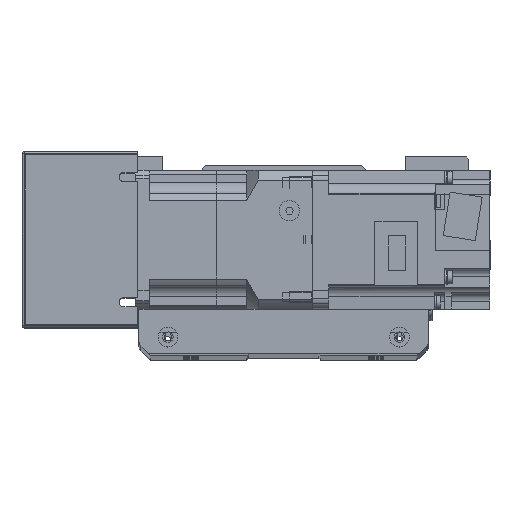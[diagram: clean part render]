
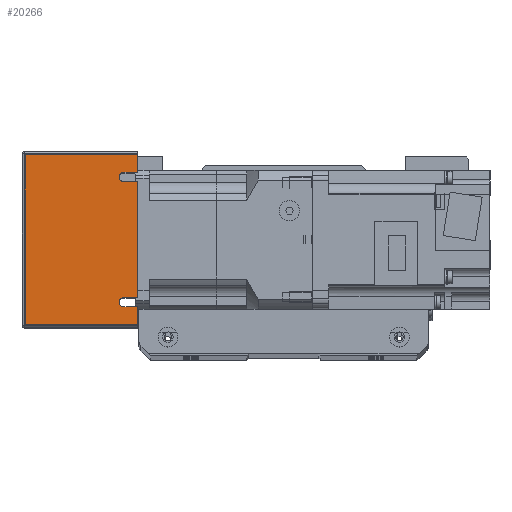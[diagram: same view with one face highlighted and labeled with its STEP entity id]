
A CAD part, top view. The second image highlights one B-rep face of the part: STEP entity #20266.
In plain terms, the highlighted planar face has unit normal (0, 0, 1) as drawn and (-1, 0, 0) by its records, which use the part's own axes.
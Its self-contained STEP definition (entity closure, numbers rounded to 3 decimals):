
#706=PLANE('',#22464);
#2036=LINE('',#34326,#3660);
#2045=LINE('',#34345,#3669);
#2052=LINE('',#34362,#3676);
#2060=LINE('',#34380,#3684);
#2073=LINE('',#34419,#3697);
#2078=LINE('',#34431,#3702);
#2082=LINE('',#34443,#3706);
#2085=LINE('',#34453,#3709);
#2086=LINE('',#34455,#3710);
#2087=LINE('',#34456,#3711);
#3660=VECTOR('',#27825,10.);
#3669=VECTOR('',#27838,10.);
#3676=VECTOR('',#27849,10.);
#3684=VECTOR('',#27861,10.);
#3697=VECTOR('',#27904,10.);
#3702=VECTOR('',#27915,10.);
#3706=VECTOR('',#27925,10.);
#3709=VECTOR('',#27936,10.);
#3710=VECTOR('',#27937,10.);
#3711=VECTOR('',#27938,10.);
#6078=FACE_OUTER_BOUND('',#7718,.T.);
#7718=EDGE_LOOP('',(#18199,#18200,#18201,#18202,#18203,#18204,#18205,#18206,
#18207,#18208,#18209,#18210));
#8878=CIRCLE('',#22442,2.);
#8883=CIRCLE('',#22450,2.);
#10587=VERTEX_POINT('',#34323);
#10588=VERTEX_POINT('',#34325);
#10594=VERTEX_POINT('',#34339);
#10596=VERTEX_POINT('',#34343);
#10603=VERTEX_POINT('',#34359);
#10604=VERTEX_POINT('',#34361);
#10611=VERTEX_POINT('',#34377);
#10612=VERTEX_POINT('',#34379);
#10623=VERTEX_POINT('',#34417);
#10632=VERTEX_POINT('',#34442);
#10635=VERTEX_POINT('',#34452);
#10636=VERTEX_POINT('',#34454);
#13158=EDGE_CURVE('',#10588,#10587,#2036,.T.);
#13167=EDGE_CURVE('',#10594,#10596,#2045,.T.);
#13174=EDGE_CURVE('',#10604,#10603,#2052,.T.);
#13182=EDGE_CURVE('',#10612,#10611,#2060,.T.);
#13188=EDGE_CURVE('',#10596,#10588,#8878,.T.);
#13199=EDGE_CURVE('',#10611,#10604,#8883,.T.);
#13204=EDGE_CURVE('',#10623,#10603,#2073,.T.);
#13211=EDGE_CURVE('',#10612,#10587,#2078,.T.);
#13217=EDGE_CURVE('',#10594,#10632,#2082,.T.);
#13222=EDGE_CURVE('',#10635,#10623,#2085,.T.);
#13223=EDGE_CURVE('',#10636,#10635,#2086,.T.);
#13224=EDGE_CURVE('',#10632,#10636,#2087,.T.);
#18199=ORIENTED_EDGE('',*,*,#13158,.T.);
#18200=ORIENTED_EDGE('',*,*,#13211,.F.);
#18201=ORIENTED_EDGE('',*,*,#13182,.T.);
#18202=ORIENTED_EDGE('',*,*,#13199,.T.);
#18203=ORIENTED_EDGE('',*,*,#13174,.T.);
#18204=ORIENTED_EDGE('',*,*,#13204,.F.);
#18205=ORIENTED_EDGE('',*,*,#13222,.F.);
#18206=ORIENTED_EDGE('',*,*,#13223,.F.);
#18207=ORIENTED_EDGE('',*,*,#13224,.F.);
#18208=ORIENTED_EDGE('',*,*,#13217,.F.);
#18209=ORIENTED_EDGE('',*,*,#13167,.T.);
#18210=ORIENTED_EDGE('',*,*,#13188,.T.);
#20266=ADVANCED_FACE('',(#6078),#706,.T.);
#22442=AXIS2_PLACEMENT_3D('',#34392,#27871,#27872);
#22450=AXIS2_PLACEMENT_3D('',#34410,#27893,#27894);
#22464=AXIS2_PLACEMENT_3D('',#34451,#27934,#27935);
#27825=DIRECTION('',(0.,0.,1.));
#27838=DIRECTION('',(0.,0.,-1.));
#27849=DIRECTION('',(0.,0.,1.));
#27861=DIRECTION('',(0.,0.,-1.));
#27871=DIRECTION('center_axis',(1.,0.,0.));
#27872=DIRECTION('ref_axis',(0.,0.,1.));
#27893=DIRECTION('center_axis',(1.,0.,0.));
#27894=DIRECTION('ref_axis',(0.,0.,1.));
#27904=DIRECTION('',(0.,-1.,0.));
#27915=DIRECTION('',(0.,-1.,0.));
#27925=DIRECTION('',(0.,-1.,0.));
#27934=DIRECTION('center_axis',(-1.,0.,0.));
#27935=DIRECTION('ref_axis',(0.,-1.,0.));
#27936=DIRECTION('',(0.,0.,1.));
#27937=DIRECTION('',(0.,1.,0.));
#27938=DIRECTION('',(0.,0.,-1.));
#34323=CARTESIAN_POINT('',(-91.,-25.,25.));
#34325=CARTESIAN_POINT('',(-91.,-25.,19.));
#34326=CARTESIAN_POINT('',(-91.,-25.,9.5));
#34339=CARTESIAN_POINT('',(-91.,-29.,25.));
#34343=CARTESIAN_POINT('',(-91.,-29.,19.));
#34345=CARTESIAN_POINT('',(-91.,-29.,15.178));
#34359=CARTESIAN_POINT('',(-91.,29.,25.));
#34361=CARTESIAN_POINT('',(-91.,29.,19.));
#34362=CARTESIAN_POINT('',(-91.,29.,9.5));
#34377=CARTESIAN_POINT('',(-91.,25.,19.));
#34379=CARTESIAN_POINT('',(-91.,25.,25.));
#34380=CARTESIAN_POINT('',(-91.,25.,15.178));
#34392=CARTESIAN_POINT('Origin',(-91.,-27.,19.));
#34410=CARTESIAN_POINT('Origin',(-91.,27.,19.));
#34417=CARTESIAN_POINT('',(-91.,37.,25.));
#34419=CARTESIAN_POINT('',(-91.,-38.,25.));
#34431=CARTESIAN_POINT('',(-91.,-38.,25.));
#34442=CARTESIAN_POINT('',(-91.,-37.,25.));
#34443=CARTESIAN_POINT('',(-91.,-38.,25.));
#34451=CARTESIAN_POINT('Origin',(-91.,38.,0.));
#34452=CARTESIAN_POINT('',(-91.,37.,-24.));
#34453=CARTESIAN_POINT('',(-91.,37.,0.));
#34454=CARTESIAN_POINT('',(-91.,-37.,-24.));
#34455=CARTESIAN_POINT('',(-91.,19.,-24.));
#34456=CARTESIAN_POINT('',(-91.,-37.,0.));
